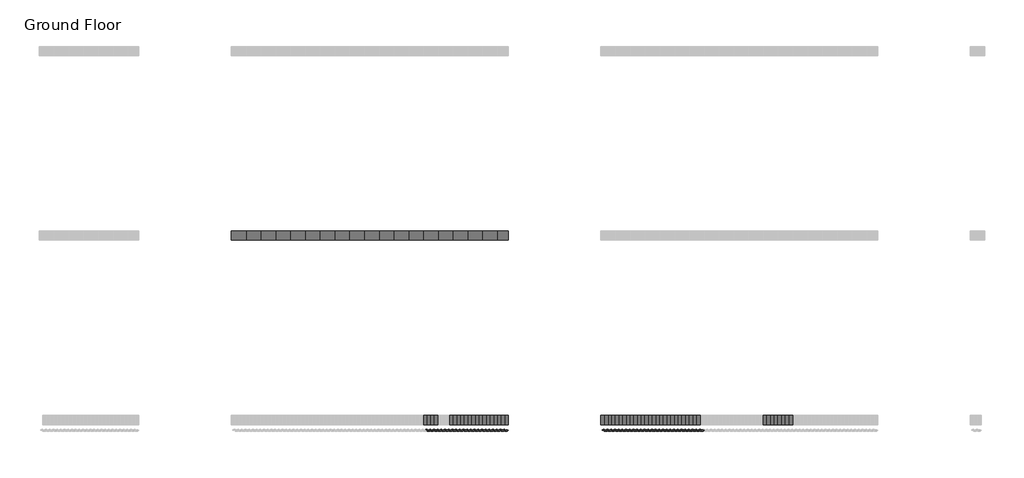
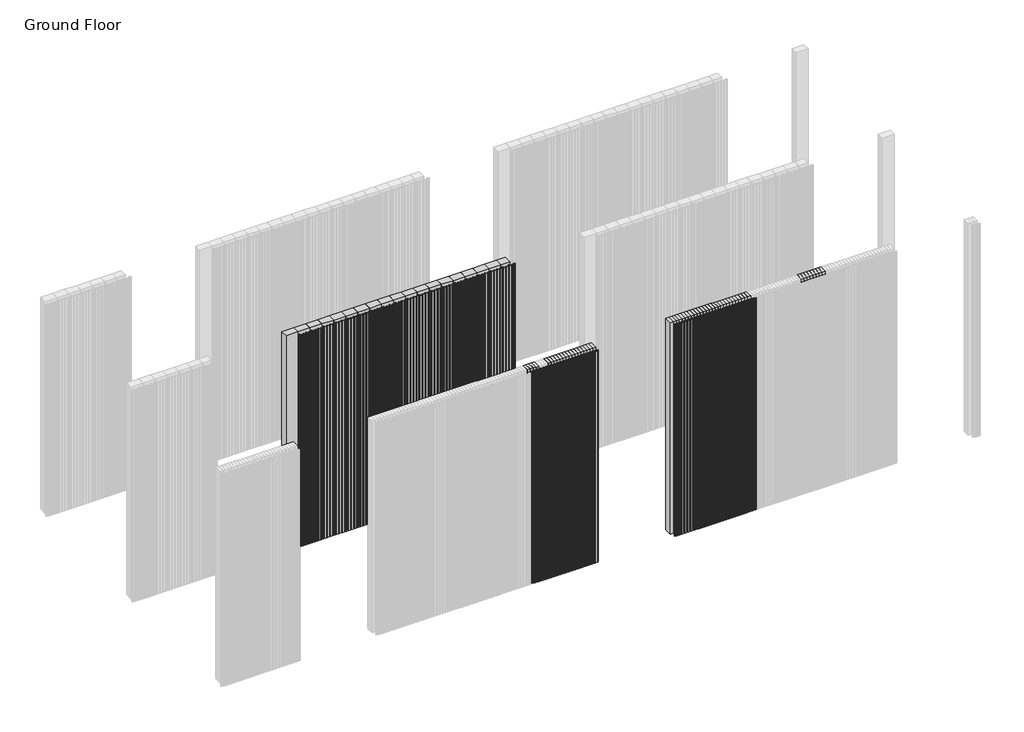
# One storey, part 27 of 350: 74 plates, 67 members.
"""IFC4 building model written with IfcOpenShell, lengths in millimetres."""

from ifc_helpers import new_model, si_unit, origin, place, context, project, spatial, transform, mapped, element, save
from components import rectangular_mullion_4c3290df, rectangular_mullion_73ab8564, empty_system_panel_empty_d822e783, empty_system_panel_empty_086c6263, empty_system_panel_empty_a0fcacb3, empty_system_panel_empty_3b645525, empty_system_panel_empty_df7ddcff

model = new_model("IFC4")

# Units and contexts
model_context = context("Model", 3, world=origin())
ifc_project = project(units=[si_unit("LENGTHUNIT", "METRE", prefix="MILLI")], contexts=[model_context])

# Site, building, storey
site = spatial("IfcSite", under=ifc_project)
building = spatial("IfcBuilding", under=site)
storey = spatial("IfcBuildingStorey", under=building, Name="Ground Floor", Elevation=0.0)

# Members
placement = place(None, origin())
rectangular_mullion_shape = rectangular_mullion_4c3290df(model_context)
element("IfcMember", 1, ObjectType="Rectangular Mullion : Cladding_Aluminium_Modinex_AluSelekta_Castelation_ScreenClad_40_SpottedGum", at=placement, inside=storey, context=model_context, shape_type="MappedRepresentation", body=[
    mapped(rectangular_mullion_shape, transform((43156.4361642, 4968.2978302, 0.0), x_axis=(1.0, 0.0, 0.0), y_axis=(0.0, -1.0, 0.0), z_axis=(0.0, 0.0, -1.0))),
])
element("IfcMember", 2, ObjectType="Rectangular Mullion : Cladding_Aluminium_Modinex_AluSelekta_Castelation_ScreenClad_40_SpottedGum", at=placement, inside=storey, context=model_context, shape_type="MappedRepresentation", body=[
    mapped(rectangular_mullion_shape, transform((43196.4361642, 4968.2978302, 0.0), x_axis=(1.0, 0.0, 0.0), y_axis=(0.0, -1.0, 0.0), z_axis=(0.0, 0.0, -1.0))),
])
element("IfcMember", 3, ObjectType="Rectangular Mullion : Cladding_Aluminium_Modinex_AluSelekta_Castelation_ScreenClad_40_SpottedGum", at=placement, inside=storey, context=model_context, shape_type="MappedRepresentation", body=[
    mapped(rectangular_mullion_shape, transform((43236.4361642, 4968.2978302, 0.0), x_axis=(1.0, 0.0, 0.0), y_axis=(0.0, -1.0, 0.0), z_axis=(0.0, 0.0, -1.0))),
])
element("IfcMember", 4, ObjectType="Rectangular Mullion : Cladding_Aluminium_Modinex_AluSelekta_Castelation_ScreenClad_40_SpottedGum", at=placement, inside=storey, context=model_context, shape_type="MappedRepresentation", body=[
    mapped(rectangular_mullion_shape, transform((43276.4361642, 4968.2978302, 0.0), x_axis=(1.0, 0.0, 0.0), y_axis=(0.0, -1.0, 0.0), z_axis=(0.0, 0.0, -1.0))),
])
element("IfcMember", 5, ObjectType="Rectangular Mullion : Cladding_Aluminium_Modinex_AluSelekta_Castelation_ScreenClad_40_SpottedGum", at=placement, inside=storey, context=model_context, shape_type="MappedRepresentation", body=[
    mapped(rectangular_mullion_shape, transform((43316.4361642, 4968.2978302, 0.0), x_axis=(1.0, 0.0, 0.0), y_axis=(0.0, -1.0, 0.0), z_axis=(0.0, 0.0, -1.0))),
])
element("IfcMember", 6, ObjectType="Rectangular Mullion : Cladding_Aluminium_Modinex_AluSelekta_Castelation_ScreenClad_40_SpottedGum", at=placement, inside=storey, context=model_context, shape_type="MappedRepresentation", body=[
    mapped(rectangular_mullion_shape, transform((43356.4361642, 4968.2978302, 0.0), x_axis=(1.0, 0.0, 0.0), y_axis=(0.0, -1.0, 0.0), z_axis=(0.0, 0.0, -1.0))),
])
element("IfcMember", 7, ObjectType="Rectangular Mullion : Cladding_Aluminium_Modinex_AluSelekta_Castelation_ScreenClad_40_SpottedGum", at=placement, inside=storey, context=model_context, shape_type="MappedRepresentation", body=[
    mapped(rectangular_mullion_shape, transform((43396.4361642, 4968.2978302, 0.0), x_axis=(1.0, 0.0, 0.0), y_axis=(0.0, -1.0, 0.0), z_axis=(0.0, 0.0, -1.0))),
])
element("IfcMember", 8, ObjectType="Rectangular Mullion : Cladding_Aluminium_Modinex_AluSelekta_Castelation_ScreenClad_40_SpottedGum", at=placement, inside=storey, context=model_context, shape_type="MappedRepresentation", body=[
    mapped(rectangular_mullion_shape, transform((43436.4361642, 4968.2978302, 0.0), x_axis=(1.0, 0.0, 0.0), y_axis=(0.0, -1.0, 0.0), z_axis=(0.0, 0.0, -1.0))),
])
element("IfcMember", 9, ObjectType="Rectangular Mullion : Cladding_Aluminium_Modinex_AluSelekta_Castelation_ScreenClad_40_SpottedGum", at=placement, inside=storey, context=model_context, shape_type="MappedRepresentation", body=[
    mapped(rectangular_mullion_shape, transform((43476.4361642, 4968.2978302, 0.0), x_axis=(1.0, 0.0, 0.0), y_axis=(0.0, -1.0, 0.0), z_axis=(0.0, 0.0, -1.0))),
])
element("IfcMember", 10, ObjectType="Rectangular Mullion : Cladding_Aluminium_Modinex_AluSelekta_Castelation_ScreenClad_40_SpottedGum", at=placement, inside=storey, context=model_context, shape_type="MappedRepresentation", body=[
    mapped(rectangular_mullion_shape, transform((43516.4361642, 4968.2978302, 0.0), x_axis=(1.0, 0.0, 0.0), y_axis=(0.0, -1.0, 0.0), z_axis=(0.0, 0.0, -1.0))),
])
element("IfcMember", 11, ObjectType="Rectangular Mullion : Cladding_Aluminium_Modinex_AluSelekta_Castelation_ScreenClad_40_SpottedGum", at=placement, inside=storey, context=model_context, shape_type="MappedRepresentation", body=[
    mapped(rectangular_mullion_shape, transform((43556.4361642, 4968.2978302, 0.0), x_axis=(1.0, 0.0, 0.0), y_axis=(0.0, -1.0, 0.0), z_axis=(0.0, 0.0, -1.0))),
])
element("IfcMember", 12, ObjectType="Rectangular Mullion : Cladding_Aluminium_Modinex_AluSelekta_Castelation_ScreenClad_40_SpottedGum", at=placement, inside=storey, context=model_context, shape_type="MappedRepresentation", body=[
    mapped(rectangular_mullion_shape, transform((43596.4361642, 4968.2978302, 0.0), x_axis=(1.0, 0.0, 0.0), y_axis=(0.0, -1.0, 0.0), z_axis=(0.0, 0.0, -1.0))),
])
element("IfcMember", 13, ObjectType="Rectangular Mullion : Cladding_Aluminium_Modinex_AluSelekta_Castelation_ScreenClad_40_SpottedGum", at=placement, inside=storey, context=model_context, shape_type="MappedRepresentation", body=[
    mapped(rectangular_mullion_shape, transform((43636.4361642, 4968.2978302, 0.0), x_axis=(1.0, 0.0, 0.0), y_axis=(0.0, -1.0, 0.0), z_axis=(0.0, 0.0, -1.0))),
])
element("IfcMember", 14, ObjectType="Rectangular Mullion : Cladding_Aluminium_Modinex_AluSelekta_Castelation_ScreenClad_40_SpottedGum", at=placement, inside=storey, context=model_context, shape_type="MappedRepresentation", body=[
    mapped(rectangular_mullion_shape, transform((43676.4361642, 4968.2978302, 0.0), x_axis=(1.0, 0.0, 0.0), y_axis=(0.0, -1.0, 0.0), z_axis=(0.0, 0.0, -1.0))),
])
element("IfcMember", 15, ObjectType="Rectangular Mullion : Cladding_Aluminium_Modinex_AluSelekta_Castelation_ScreenClad_40_SpottedGum", at=placement, inside=storey, context=model_context, shape_type="MappedRepresentation", body=[
    mapped(rectangular_mullion_shape, transform((43716.4361642, 4968.2978302, 0.0), x_axis=(1.0, 0.0, 0.0), y_axis=(0.0, -1.0, 0.0), z_axis=(0.0, 0.0, -1.0))),
])
element("IfcMember", 16, ObjectType="Rectangular Mullion : Cladding_Aluminium_Modinex_AluSelekta_Castelation_ScreenClad_40_SpottedGum", at=placement, inside=storey, context=model_context, shape_type="MappedRepresentation", body=[
    mapped(rectangular_mullion_shape, transform((43756.4361642, 4968.2978302, 0.0), x_axis=(1.0, 0.0, 0.0), y_axis=(0.0, -1.0, 0.0), z_axis=(0.0, 0.0, -1.0))),
])
element("IfcMember", 17, ObjectType="Rectangular Mullion : Cladding_Aluminium_Modinex_AluSelekta_Castelation_ScreenClad_40_SpottedGum", at=placement, inside=storey, context=model_context, shape_type="MappedRepresentation", body=[
    mapped(rectangular_mullion_shape, transform((43796.4361642, 4968.2978302, 0.0), x_axis=(1.0, 0.0, 0.0), y_axis=(0.0, -1.0, 0.0), z_axis=(0.0, 0.0, -1.0))),
])
element("IfcMember", 18, ObjectType="Rectangular Mullion : Cladding_Aluminium_Modinex_AluSelekta_Castelation_ScreenClad_40_SpottedGum", at=placement, inside=storey, context=model_context, shape_type="MappedRepresentation", body=[
    mapped(rectangular_mullion_shape, transform((43836.4361642, 4968.2978302, 0.0), x_axis=(1.0, 0.0, 0.0), y_axis=(0.0, -1.0, 0.0), z_axis=(0.0, 0.0, -1.0))),
])
element("IfcMember", 19, ObjectType="Rectangular Mullion : Cladding_Aluminium_Modinex_AluSelekta_Castelation_ScreenClad_40_SpottedGum", at=placement, inside=storey, context=model_context, shape_type="MappedRepresentation", body=[
    mapped(rectangular_mullion_shape, transform((43876.4361642, 4968.2978302, 0.0), x_axis=(1.0, 0.0, 0.0), y_axis=(0.0, -1.0, 0.0), z_axis=(0.0, 0.0, -1.0))),
])
element("IfcMember", 20, ObjectType="Rectangular Mullion : Cladding_Aluminium_Modinex_AluSelekta_Castelation_ScreenClad_40_SpottedGum", at=placement, inside=storey, context=model_context, shape_type="MappedRepresentation", body=[
    mapped(rectangular_mullion_shape, transform((43116.4361642, 4968.2978302, 0.0), x_axis=(1.0, 0.0, 0.0), y_axis=(0.0, -1.0, 0.0), z_axis=(0.0, 0.0, -1.0))),
])
element("IfcMember", 21, ObjectType="Rectangular Mullion : Cladding_Aluminium_Modinex_AluSelekta_Castelation_ScreenClad_40_SpottedGum", at=placement, inside=storey, context=model_context, shape_type="MappedRepresentation", body=[
    mapped(rectangular_mullion_shape, transform((43076.4361642, 4968.2978302, 0.0), x_axis=(1.0, 0.0, 0.0), y_axis=(0.0, -1.0, 0.0), z_axis=(0.0, 0.0, -1.0))),
])
element("IfcMember", 22, ObjectType="Rectangular Mullion : Cladding_Aluminium_Modinex_AluSelekta_Castelation_ScreenClad_40_SpottedGum", at=placement, inside=storey, context=model_context, shape_type="MappedRepresentation", body=[
    mapped(rectangular_mullion_shape, transform((43036.4361642, 4968.2978302, 0.0), x_axis=(1.0, 0.0, 0.0), y_axis=(0.0, -1.0, 0.0), z_axis=(0.0, 0.0, -1.0))),
])
element("IfcMember", 23, ObjectType="Rectangular Mullion : Cladding_Aluminium_Modinex_AluSelekta_Castelation_ScreenClad_40_TasmanianOak", at=placement, inside=storey, context=model_context, shape_type="MappedRepresentation", body=[
    mapped(rectangular_mullion_shape, transform((45996.4361642, 4968.2978302, 0.0), x_axis=(1.0, 0.0, 0.0), y_axis=(0.0, -1.0, 0.0), z_axis=(0.0, 0.0, -1.0))),
])
element("IfcMember", 24, ObjectType="Rectangular Mullion : Cladding_Aluminium_Modinex_AluSelekta_Castelation_ScreenClad_40_TasmanianOak", at=placement, inside=storey, context=model_context, shape_type="MappedRepresentation", body=[
    mapped(rectangular_mullion_shape, transform((45956.4361642, 4968.2978302, 0.0), x_axis=(1.0, 0.0, 0.0), y_axis=(0.0, -1.0, 0.0), z_axis=(0.0, 0.0, -1.0))),
])
element("IfcMember", 25, ObjectType="Rectangular Mullion : Cladding_Aluminium_Modinex_AluSelekta_Castelation_ScreenClad_40_TasmanianOak", at=placement, inside=storey, context=model_context, shape_type="MappedRepresentation", body=[
    mapped(rectangular_mullion_shape, transform((45916.4361642, 4968.2978302, 0.0), x_axis=(1.0, 0.0, 0.0), y_axis=(0.0, -1.0, 0.0), z_axis=(0.0, 0.0, -1.0))),
])
element("IfcMember", 26, ObjectType="Rectangular Mullion : Cladding_Aluminium_Modinex_AluSelekta_Castelation_ScreenClad_40_TasmanianOak", at=placement, inside=storey, context=model_context, shape_type="MappedRepresentation", body=[
    mapped(rectangular_mullion_shape, transform((45876.4361642, 4968.2978302, 0.0), x_axis=(1.0, 0.0, 0.0), y_axis=(0.0, -1.0, 0.0), z_axis=(0.0, 0.0, -1.0))),
])
element("IfcMember", 27, ObjectType="Rectangular Mullion : Cladding_Aluminium_Modinex_AluSelekta_Castelation_ScreenClad_40_TasmanianOak", at=placement, inside=storey, context=model_context, shape_type="MappedRepresentation", body=[
    mapped(rectangular_mullion_shape, transform((45836.4361642, 4968.2978302, 0.0), x_axis=(1.0, 0.0, 0.0), y_axis=(0.0, -1.0, 0.0), z_axis=(0.0, 0.0, -1.0))),
])
element("IfcMember", 28, ObjectType="Rectangular Mullion : Cladding_Aluminium_Modinex_AluSelekta_Castelation_ScreenClad_40_TasmanianOak", at=placement, inside=storey, context=model_context, shape_type="MappedRepresentation", body=[
    mapped(rectangular_mullion_shape, transform((45796.4361642, 4968.2978302, 0.0), x_axis=(1.0, 0.0, 0.0), y_axis=(0.0, -1.0, 0.0), z_axis=(0.0, 0.0, -1.0))),
])
element("IfcMember", 29, ObjectType="Rectangular Mullion : Cladding_Aluminium_Modinex_AluSelekta_Castelation_ScreenClad_40_TasmanianOak", at=placement, inside=storey, context=model_context, shape_type="MappedRepresentation", body=[
    mapped(rectangular_mullion_shape, transform((45756.4361642, 4968.2978302, 0.0), x_axis=(1.0, 0.0, 0.0), y_axis=(0.0, -1.0, 0.0), z_axis=(0.0, 0.0, -1.0))),
])
element("IfcMember", 30, ObjectType="Rectangular Mullion : Cladding_Aluminium_Modinex_AluSelekta_Castelation_ScreenClad_40_TasmanianOak", at=placement, inside=storey, context=model_context, shape_type="MappedRepresentation", body=[
    mapped(rectangular_mullion_shape, transform((45716.4361642, 4968.2978302, 0.0), x_axis=(1.0, 0.0, 0.0), y_axis=(0.0, -1.0, 0.0), z_axis=(0.0, 0.0, -1.0))),
])
element("IfcMember", 31, ObjectType="Rectangular Mullion : Cladding_Aluminium_Modinex_AluSelekta_Castelation_ScreenClad_40_TasmanianOak", at=placement, inside=storey, context=model_context, shape_type="MappedRepresentation", body=[
    mapped(rectangular_mullion_shape, transform((45676.4361642, 4968.2978302, 0.0), x_axis=(1.0, 0.0, 0.0), y_axis=(0.0, -1.0, 0.0), z_axis=(0.0, 0.0, -1.0))),
])
element("IfcMember", 32, ObjectType="Rectangular Mullion : Cladding_Aluminium_Modinex_AluSelekta_Castelation_ScreenClad_40_TasmanianOak", at=placement, inside=storey, context=model_context, shape_type="MappedRepresentation", body=[
    mapped(rectangular_mullion_shape, transform((45636.4361642, 4968.2978302, 0.0), x_axis=(1.0, 0.0, 0.0), y_axis=(0.0, -1.0, 0.0), z_axis=(0.0, 0.0, -1.0))),
])
element("IfcMember", 33, ObjectType="Rectangular Mullion : Cladding_Aluminium_Modinex_AluSelekta_Castelation_ScreenClad_40_TasmanianOak", at=placement, inside=storey, context=model_context, shape_type="MappedRepresentation", body=[
    mapped(rectangular_mullion_shape, transform((45596.4361642, 4968.2978302, 0.0), x_axis=(1.0, 0.0, 0.0), y_axis=(0.0, -1.0, 0.0), z_axis=(0.0, 0.0, -1.0))),
])
element("IfcMember", 34, ObjectType="Rectangular Mullion : Cladding_Aluminium_Modinex_AluSelekta_Castelation_ScreenClad_40_TasmanianOak", at=placement, inside=storey, context=model_context, shape_type="MappedRepresentation", body=[
    mapped(rectangular_mullion_shape, transform((45556.4361642, 4968.2978302, 0.0), x_axis=(1.0, 0.0, 0.0), y_axis=(0.0, -1.0, 0.0), z_axis=(0.0, 0.0, -1.0))),
])
element("IfcMember", 35, ObjectType="Rectangular Mullion : Cladding_Aluminium_Modinex_AluSelekta_Castelation_ScreenClad_40_TasmanianOak", at=placement, inside=storey, context=model_context, shape_type="MappedRepresentation", body=[
    mapped(rectangular_mullion_shape, transform((45516.4361642, 4968.2978302, 0.0), x_axis=(1.0, 0.0, 0.0), y_axis=(0.0, -1.0, 0.0), z_axis=(0.0, 0.0, -1.0))),
])
element("IfcMember", 36, ObjectType="Rectangular Mullion : Cladding_Aluminium_Modinex_AluSelekta_Castelation_ScreenClad_40_TasmanianOak", at=placement, inside=storey, context=model_context, shape_type="MappedRepresentation", body=[
    mapped(rectangular_mullion_shape, transform((45476.4361642, 4968.2978302, 0.0), x_axis=(1.0, 0.0, 0.0), y_axis=(0.0, -1.0, 0.0), z_axis=(0.0, 0.0, -1.0))),
])
element("IfcMember", 37, ObjectType="Rectangular Mullion : Cladding_Aluminium_Modinex_AluSelekta_Castelation_ScreenClad_40_TasmanianOak", at=placement, inside=storey, context=model_context, shape_type="MappedRepresentation", body=[
    mapped(rectangular_mullion_shape, transform((45436.4361642, 4968.2978302, 0.0), x_axis=(1.0, 0.0, 0.0), y_axis=(0.0, -1.0, 0.0), z_axis=(0.0, 0.0, -1.0))),
])
element("IfcMember", 38, ObjectType="Rectangular Mullion : Cladding_Aluminium_Modinex_AluSelekta_Castelation_ScreenClad_40_TasmanianOak", at=placement, inside=storey, context=model_context, shape_type="MappedRepresentation", body=[
    mapped(rectangular_mullion_shape, transform((45396.4361642, 4968.2978302, 0.0), x_axis=(1.0, 0.0, 0.0), y_axis=(0.0, -1.0, 0.0), z_axis=(0.0, 0.0, -1.0))),
])
element("IfcMember", 39, ObjectType="Rectangular Mullion : Cladding_Aluminium_Modinex_AluSelekta_Castelation_ScreenClad_40_TasmanianOak", at=placement, inside=storey, context=model_context, shape_type="MappedRepresentation", body=[
    mapped(rectangular_mullion_shape, transform((45356.4361642, 4968.2978302, 0.0), x_axis=(1.0, 0.0, 0.0), y_axis=(0.0, -1.0, 0.0), z_axis=(0.0, 0.0, -1.0))),
])
element("IfcMember", 40, ObjectType="Rectangular Mullion : Cladding_Aluminium_Modinex_AluSelekta_Castelation_ScreenClad_40_TasmanianOak", at=placement, inside=storey, context=model_context, shape_type="MappedRepresentation", body=[
    mapped(rectangular_mullion_shape, transform((45316.4361642, 4968.2978302, 0.0), x_axis=(1.0, 0.0, 0.0), y_axis=(0.0, -1.0, 0.0), z_axis=(0.0, 0.0, -1.0))),
])
element("IfcMember", 41, ObjectType="Rectangular Mullion : Cladding_Aluminium_Modinex_AluSelekta_Castelation_ScreenClad_40_TasmanianOak", at=placement, inside=storey, context=model_context, shape_type="MappedRepresentation", body=[
    mapped(rectangular_mullion_shape, transform((45276.4361642, 4968.2978302, 0.0), x_axis=(1.0, 0.0, 0.0), y_axis=(0.0, -1.0, 0.0), z_axis=(0.0, 0.0, -1.0))),
])
element("IfcMember", 42, ObjectType="Rectangular Mullion : Cladding_Aluminium_Modinex_AluSelekta_Castelation_ScreenClad_40_TasmanianOak", at=placement, inside=storey, context=model_context, shape_type="MappedRepresentation", body=[
    mapped(rectangular_mullion_shape, transform((45236.4361642, 4968.2978302, 0.0), x_axis=(1.0, 0.0, 0.0), y_axis=(0.0, -1.0, 0.0), z_axis=(0.0, 0.0, -1.0))),
])
element("IfcMember", 43, ObjectType="Rectangular Mullion : Cladding_Aluminium_Modinex_AluSelekta_Castelation_ScreenClad_40_TasmanianOak", at=placement, inside=storey, context=model_context, shape_type="MappedRepresentation", body=[
    mapped(rectangular_mullion_shape, transform((45196.4361642, 4968.2978302, 0.0), x_axis=(1.0, 0.0, 0.0), y_axis=(0.0, -1.0, 0.0), z_axis=(0.0, 0.0, -1.0))),
])
element("IfcMember", 44, ObjectType="Rectangular Mullion : Cladding_Aluminium_Modinex_AluSelekta_Castelation_ScreenClad_40_TasmanianOak", at=placement, inside=storey, context=model_context, shape_type="MappedRepresentation", body=[
    mapped(rectangular_mullion_shape, transform((45156.4361642, 4968.2978302, 0.0), x_axis=(1.0, 0.0, 0.0), y_axis=(0.0, -1.0, 0.0), z_axis=(0.0, 0.0, -1.0))),
])
element("IfcMember", 45, ObjectType="Rectangular Mullion : Cladding_Aluminium_Modinex_AluSelekta_Castelation_ScreenClad_40_TasmanianOak", at=placement, inside=storey, context=model_context, shape_type="MappedRepresentation", body=[
    mapped(rectangular_mullion_shape, transform((45116.4361642, 4968.2978302, 0.0), x_axis=(1.0, 0.0, 0.0), y_axis=(0.0, -1.0, 0.0), z_axis=(0.0, 0.0, -1.0))),
])
element("IfcMember", 46, ObjectType="Rectangular Mullion : Cladding_Aluminium_Modinex_AluSelekta_Castelation_ScreenClad_40_TasmanianOak", at=placement, inside=storey, context=model_context, shape_type="MappedRepresentation", body=[
    mapped(rectangular_mullion_shape, transform((45076.4361642, 4968.2978302, 0.0), x_axis=(1.0, 0.0, 0.0), y_axis=(0.0, -1.0, 0.0), z_axis=(0.0, 0.0, -1.0))),
])
element("IfcMember", 47, ObjectType="Rectangular Mullion : Cladding_Aluminium_Modinex_AluSelekta_Castelation_ScreenClad_40_TasmanianOak", at=placement, inside=storey, context=model_context, shape_type="MappedRepresentation", body=[
    mapped(rectangular_mullion_shape, transform((45036.4361642, 4968.2978302, 0.0), x_axis=(1.0, 0.0, 0.0), y_axis=(0.0, -1.0, 0.0), z_axis=(0.0, 0.0, -1.0))),
])
element("IfcMember", 48, ObjectType="Rectangular Mullion : Cladding_Aluminium_Modinex_AluSelekta_Castelation_ScreenClad_40_TasmanianOak", at=placement, inside=storey, context=model_context, shape_type="MappedRepresentation", body=[
    mapped(rectangular_mullion_shape, transform((44996.4361642, 4968.2978302, 0.0), x_axis=(1.0, 0.0, 0.0), y_axis=(0.0, -1.0, 0.0), z_axis=(0.0, 0.0, -1.0))),
])
element("IfcMember", 49, ObjectType="Rectangular Mullion : Cladding_Aluminium_Modinex_AluSelekta_Castelation_ScreenClad_40_TasmanianOak", at=placement, inside=storey, context=model_context, shape_type="MappedRepresentation", body=[
    mapped(rectangular_mullion_shape, transform((44956.4361642, 4968.2978302, 0.0), x_axis=(1.0, 0.0, 0.0), y_axis=(0.0, -1.0, 0.0), z_axis=(0.0, 0.0, -1.0))),
])
rectangular_mullion_2_shape = rectangular_mullion_73ab8564(model_context)
element("IfcMember", 50, ObjectType="Rectangular Mullion : Cladding_Aluminium_Modinex_AluSelekta_Castelation_ScreenClad_160_SpottedGum", at=placement, inside=storey, context=model_context, shape_type="MappedRepresentation", body=[
    mapped(rectangular_mullion_2_shape, transform((41076.4361642, 6968.2978302, 0.0), x_axis=(1.0, 0.0, 0.0), y_axis=(0.0, -1.0, 0.0), z_axis=(0.0, 0.0, -1.0))),
])
element("IfcMember", 51, ObjectType="Rectangular Mullion : Cladding_Aluminium_Modinex_AluSelekta_Castelation_ScreenClad_160_SpottedGum", at=placement, inside=storey, context=model_context, shape_type="MappedRepresentation", body=[
    mapped(rectangular_mullion_2_shape, transform((41236.4361642, 6968.2978302, 0.0), x_axis=(1.0, 0.0, 0.0), y_axis=(0.0, -1.0, 0.0), z_axis=(0.0, 0.0, -1.0))),
])
element("IfcMember", 52, ObjectType="Rectangular Mullion : Cladding_Aluminium_Modinex_AluSelekta_Castelation_ScreenClad_160_SpottedGum", at=placement, inside=storey, context=model_context, shape_type="MappedRepresentation", body=[
    mapped(rectangular_mullion_2_shape, transform((41396.4361642, 6968.2978302, 0.0), x_axis=(1.0, 0.0, 0.0), y_axis=(0.0, -1.0, 0.0), z_axis=(0.0, 0.0, -1.0))),
])
element("IfcMember", 53, ObjectType="Rectangular Mullion : Cladding_Aluminium_Modinex_AluSelekta_Castelation_ScreenClad_160_SpottedGum", at=placement, inside=storey, context=model_context, shape_type="MappedRepresentation", body=[
    mapped(rectangular_mullion_2_shape, transform((41556.4361642, 6968.2978302, 0.0), x_axis=(1.0, 0.0, 0.0), y_axis=(0.0, -1.0, 0.0), z_axis=(0.0, 0.0, -1.0))),
])
element("IfcMember", 54, ObjectType="Rectangular Mullion : Cladding_Aluminium_Modinex_AluSelekta_Castelation_ScreenClad_160_SpottedGum", at=placement, inside=storey, context=model_context, shape_type="MappedRepresentation", body=[
    mapped(rectangular_mullion_2_shape, transform((41716.4361642, 6968.2978302, 0.0), x_axis=(1.0, 0.0, 0.0), y_axis=(0.0, -1.0, 0.0), z_axis=(0.0, 0.0, -1.0))),
])
element("IfcMember", 55, ObjectType="Rectangular Mullion : Cladding_Aluminium_Modinex_AluSelekta_Castelation_ScreenClad_160_SpottedGum", at=placement, inside=storey, context=model_context, shape_type="MappedRepresentation", body=[
    mapped(rectangular_mullion_2_shape, transform((41876.4361642, 6968.2978302, 0.0), x_axis=(1.0, 0.0, 0.0), y_axis=(0.0, -1.0, 0.0), z_axis=(0.0, 0.0, -1.0))),
])
element("IfcMember", 56, ObjectType="Rectangular Mullion : Cladding_Aluminium_Modinex_AluSelekta_Castelation_ScreenClad_160_SpottedGum", at=placement, inside=storey, context=model_context, shape_type="MappedRepresentation", body=[
    mapped(rectangular_mullion_2_shape, transform((42036.4361642, 6968.2978302, 0.0), x_axis=(1.0, 0.0, 0.0), y_axis=(0.0, -1.0, 0.0), z_axis=(0.0, 0.0, -1.0))),
])
element("IfcMember", 57, ObjectType="Rectangular Mullion : Cladding_Aluminium_Modinex_AluSelekta_Castelation_ScreenClad_160_SpottedGum", at=placement, inside=storey, context=model_context, shape_type="MappedRepresentation", body=[
    mapped(rectangular_mullion_2_shape, transform((42196.4361642, 6968.2978302, 0.0), x_axis=(1.0, 0.0, 0.0), y_axis=(0.0, -1.0, 0.0), z_axis=(0.0, 0.0, -1.0))),
])
element("IfcMember", 58, ObjectType="Rectangular Mullion : Cladding_Aluminium_Modinex_AluSelekta_Castelation_ScreenClad_160_SpottedGum", at=placement, inside=storey, context=model_context, shape_type="MappedRepresentation", body=[
    mapped(rectangular_mullion_2_shape, transform((42356.4361642, 6968.2978302, 0.0), x_axis=(1.0, 0.0, 0.0), y_axis=(0.0, -1.0, 0.0), z_axis=(0.0, 0.0, -1.0))),
])
element("IfcMember", 59, ObjectType="Rectangular Mullion : Cladding_Aluminium_Modinex_AluSelekta_Castelation_ScreenClad_160_SpottedGum", at=placement, inside=storey, context=model_context, shape_type="MappedRepresentation", body=[
    mapped(rectangular_mullion_2_shape, transform((42516.4361642, 6968.2978302, 0.0), x_axis=(1.0, 0.0, 0.0), y_axis=(0.0, -1.0, 0.0), z_axis=(0.0, 0.0, -1.0))),
])
element("IfcMember", 60, ObjectType="Rectangular Mullion : Cladding_Aluminium_Modinex_AluSelekta_Castelation_ScreenClad_160_SpottedGum", at=placement, inside=storey, context=model_context, shape_type="MappedRepresentation", body=[
    mapped(rectangular_mullion_2_shape, transform((42676.4361642, 6968.2978302, 0.0), x_axis=(1.0, 0.0, 0.0), y_axis=(0.0, -1.0, 0.0), z_axis=(0.0, 0.0, -1.0))),
])
element("IfcMember", 61, ObjectType="Rectangular Mullion : Cladding_Aluminium_Modinex_AluSelekta_Castelation_ScreenClad_160_SpottedGum", at=placement, inside=storey, context=model_context, shape_type="MappedRepresentation", body=[
    mapped(rectangular_mullion_2_shape, transform((42836.4361642, 6968.2978302, 0.0), x_axis=(1.0, 0.0, 0.0), y_axis=(0.0, -1.0, 0.0), z_axis=(0.0, 0.0, -1.0))),
])
element("IfcMember", 62, ObjectType="Rectangular Mullion : Cladding_Aluminium_Modinex_AluSelekta_Castelation_ScreenClad_160_SpottedGum", at=placement, inside=storey, context=model_context, shape_type="MappedRepresentation", body=[
    mapped(rectangular_mullion_2_shape, transform((42996.4361642, 6968.2978302, 0.0), x_axis=(1.0, 0.0, 0.0), y_axis=(0.0, -1.0, 0.0), z_axis=(0.0, 0.0, -1.0))),
])
element("IfcMember", 63, ObjectType="Rectangular Mullion : Cladding_Aluminium_Modinex_AluSelekta_Castelation_ScreenClad_160_SpottedGum", at=placement, inside=storey, context=model_context, shape_type="MappedRepresentation", body=[
    mapped(rectangular_mullion_2_shape, transform((43156.4361642, 6968.2978302, 0.0), x_axis=(1.0, 0.0, 0.0), y_axis=(0.0, -1.0, 0.0), z_axis=(0.0, 0.0, -1.0))),
])
element("IfcMember", 64, ObjectType="Rectangular Mullion : Cladding_Aluminium_Modinex_AluSelekta_Castelation_ScreenClad_160_SpottedGum", at=placement, inside=storey, context=model_context, shape_type="MappedRepresentation", body=[
    mapped(rectangular_mullion_2_shape, transform((43316.4361642, 6968.2978302, 0.0), x_axis=(1.0, 0.0, 0.0), y_axis=(0.0, -1.0, 0.0), z_axis=(0.0, 0.0, -1.0))),
])
element("IfcMember", 65, ObjectType="Rectangular Mullion : Cladding_Aluminium_Modinex_AluSelekta_Castelation_ScreenClad_160_SpottedGum", at=placement, inside=storey, context=model_context, shape_type="MappedRepresentation", body=[
    mapped(rectangular_mullion_2_shape, transform((43476.4361642, 6968.2978302, 0.0), x_axis=(1.0, 0.0, 0.0), y_axis=(0.0, -1.0, 0.0), z_axis=(0.0, 0.0, -1.0))),
])
element("IfcMember", 66, ObjectType="Rectangular Mullion : Cladding_Aluminium_Modinex_AluSelekta_Castelation_ScreenClad_160_SpottedGum", at=placement, inside=storey, context=model_context, shape_type="MappedRepresentation", body=[
    mapped(rectangular_mullion_2_shape, transform((43636.4361642, 6968.2978302, 0.0), x_axis=(1.0, 0.0, 0.0), y_axis=(0.0, -1.0, 0.0), z_axis=(0.0, 0.0, -1.0))),
])
element("IfcMember", 67, ObjectType="Rectangular Mullion : Cladding_Aluminium_Modinex_AluSelekta_Castelation_ScreenClad_160_SpottedGum", at=placement, inside=storey, context=model_context, shape_type="MappedRepresentation", body=[
    mapped(rectangular_mullion_2_shape, transform((43796.4361642, 6968.2978302, 0.0), x_axis=(1.0, 0.0, 0.0), y_axis=(0.0, -1.0, 0.0), z_axis=(0.0, 0.0, -1.0))),
])

# Plates
empty_system_panel_empty_shape = empty_system_panel_empty_d822e783(model_context)
element("IfcPlate", 68, ObjectType="Empty System Panel : Empty", at=placement, inside=storey, context=model_context, shape_type="MappedRepresentation", body=[
    mapped(empty_system_panel_empty_shape, transform((44936.4361641, 4968.2978302, 0.0), x_axis=(1.0, 0.0, 0.0), y_axis=(0.0, 1.0, 0.0), z_axis=(0.0, 0.0, 1.0))),
])
empty_system_panel_empty_2_shape = empty_system_panel_empty_086c6263(model_context)
element("IfcPlate", 69, ObjectType="Empty System Panel : Empty", at=placement, inside=storey, context=model_context, shape_type="MappedRepresentation", body=[
    mapped(empty_system_panel_empty_2_shape, transform((43296.4361642, 4968.2978302, 0.0), x_axis=(1.0, 0.0, 0.0), y_axis=(0.0, 1.0, 0.0), z_axis=(0.0, 0.0, 1.0))),
])
element("IfcPlate", 70, ObjectType="Empty System Panel : Empty", at=placement, inside=storey, context=model_context, shape_type="MappedRepresentation", body=[
    mapped(empty_system_panel_empty_2_shape, transform((43336.4361642, 4968.2978302, 0.0), x_axis=(1.0, 0.0, 0.0), y_axis=(0.0, 1.0, 0.0), z_axis=(0.0, 0.0, 1.0))),
])
element("IfcPlate", 71, ObjectType="Empty System Panel : Empty", at=placement, inside=storey, context=model_context, shape_type="MappedRepresentation", body=[
    mapped(empty_system_panel_empty_2_shape, transform((43376.4361642, 4968.2978302, 0.0), x_axis=(1.0, 0.0, 0.0), y_axis=(0.0, 1.0, 0.0), z_axis=(0.0, 0.0, 1.0))),
])
element("IfcPlate", 72, ObjectType="Empty System Panel : Empty", at=placement, inside=storey, context=model_context, shape_type="MappedRepresentation", body=[
    mapped(empty_system_panel_empty_2_shape, transform((43416.4361642, 4968.2978302, 0.0), x_axis=(1.0, 0.0, 0.0), y_axis=(0.0, 1.0, 0.0), z_axis=(0.0, 0.0, 1.0))),
])
element("IfcPlate", 73, ObjectType="Empty System Panel : Empty", at=placement, inside=storey, context=model_context, shape_type="MappedRepresentation", body=[
    mapped(empty_system_panel_empty_2_shape, transform((43456.4361642, 4968.2978302, 0.0), x_axis=(1.0, 0.0, 0.0), y_axis=(0.0, 1.0, 0.0), z_axis=(0.0, 0.0, 1.0))),
])
element("IfcPlate", 74, ObjectType="Empty System Panel : Empty", at=placement, inside=storey, context=model_context, shape_type="MappedRepresentation", body=[
    mapped(empty_system_panel_empty_2_shape, transform((43496.4361642, 4968.2978302, 0.0), x_axis=(1.0, 0.0, 0.0), y_axis=(0.0, 1.0, 0.0), z_axis=(0.0, 0.0, 1.0))),
])
element("IfcPlate", 75, ObjectType="Empty System Panel : Empty", at=placement, inside=storey, context=model_context, shape_type="MappedRepresentation", body=[
    mapped(empty_system_panel_empty_2_shape, transform((43536.4361642, 4968.2978302, 0.0), x_axis=(1.0, 0.0, 0.0), y_axis=(0.0, 1.0, 0.0), z_axis=(0.0, 0.0, 1.0))),
])
element("IfcPlate", 76, ObjectType="Empty System Panel : Empty", at=placement, inside=storey, context=model_context, shape_type="MappedRepresentation", body=[
    mapped(empty_system_panel_empty_2_shape, transform((43576.4361642, 4968.2978302, 0.0), x_axis=(1.0, 0.0, 0.0), y_axis=(0.0, 1.0, 0.0), z_axis=(0.0, 0.0, 1.0))),
])
element("IfcPlate", 77, ObjectType="Empty System Panel : Empty", at=placement, inside=storey, context=model_context, shape_type="MappedRepresentation", body=[
    mapped(empty_system_panel_empty_2_shape, transform((43616.4361642, 4968.2978302, 0.0), x_axis=(1.0, 0.0, 0.0), y_axis=(0.0, 1.0, 0.0), z_axis=(0.0, 0.0, 1.0))),
])
element("IfcPlate", 78, ObjectType="Empty System Panel : Empty", at=placement, inside=storey, context=model_context, shape_type="MappedRepresentation", body=[
    mapped(empty_system_panel_empty_2_shape, transform((43656.4361642, 4968.2978302, 0.0), x_axis=(1.0, 0.0, 0.0), y_axis=(0.0, 1.0, 0.0), z_axis=(0.0, 0.0, 1.0))),
])
element("IfcPlate", 79, ObjectType="Empty System Panel : Empty", at=placement, inside=storey, context=model_context, shape_type="MappedRepresentation", body=[
    mapped(empty_system_panel_empty_2_shape, transform((43696.4361642, 4968.2978302, 0.0), x_axis=(1.0, 0.0, 0.0), y_axis=(0.0, 1.0, 0.0), z_axis=(0.0, 0.0, 1.0))),
])
element("IfcPlate", 80, ObjectType="Empty System Panel : Empty", at=placement, inside=storey, context=model_context, shape_type="MappedRepresentation", body=[
    mapped(empty_system_panel_empty_2_shape, transform((43736.4361642, 4968.2978302, 0.0), x_axis=(1.0, 0.0, 0.0), y_axis=(0.0, 1.0, 0.0), z_axis=(0.0, 0.0, 1.0))),
])
element("IfcPlate", 81, ObjectType="Empty System Panel : Empty", at=placement, inside=storey, context=model_context, shape_type="MappedRepresentation", body=[
    mapped(empty_system_panel_empty_2_shape, transform((43776.4361642, 4968.2978302, 0.0), x_axis=(1.0, 0.0, 0.0), y_axis=(0.0, 1.0, 0.0), z_axis=(0.0, 0.0, 1.0))),
])
element("IfcPlate", 82, ObjectType="Empty System Panel : Empty", at=placement, inside=storey, context=model_context, shape_type="MappedRepresentation", body=[
    mapped(empty_system_panel_empty_2_shape, transform((43816.4361642, 4968.2978302, 0.0), x_axis=(1.0, 0.0, 0.0), y_axis=(0.0, 1.0, 0.0), z_axis=(0.0, 0.0, 1.0))),
])
element("IfcPlate", 83, ObjectType="Empty System Panel : Empty", at=placement, inside=storey, context=model_context, shape_type="MappedRepresentation", body=[
    mapped(empty_system_panel_empty_2_shape, transform((43856.4361642, 4968.2978302, 0.0), x_axis=(1.0, 0.0, 0.0), y_axis=(0.0, 1.0, 0.0), z_axis=(0.0, 0.0, 1.0))),
])
element("IfcPlate", 84, ObjectType="Empty System Panel : Empty", at=placement, inside=storey, context=model_context, shape_type="MappedRepresentation", body=[
    mapped(empty_system_panel_empty_2_shape, transform((43136.4361642, 4968.2978302, 0.0), x_axis=(1.0, 0.0, 0.0), y_axis=(0.0, 1.0, 0.0), z_axis=(0.0, 0.0, 1.0))),
])
element("IfcPlate", 85, ObjectType="Empty System Panel : Empty", at=placement, inside=storey, context=model_context, shape_type="MappedRepresentation", body=[
    mapped(empty_system_panel_empty_2_shape, transform((43096.4361642, 4968.2978302, 0.0), x_axis=(1.0, 0.0, 0.0), y_axis=(0.0, 1.0, 0.0), z_axis=(0.0, 0.0, 1.0))),
])
element("IfcPlate", 86, ObjectType="Empty System Panel : Empty", at=placement, inside=storey, context=model_context, shape_type="MappedRepresentation", body=[
    mapped(empty_system_panel_empty_2_shape, transform((43056.4361642, 4968.2978302, 0.0), x_axis=(1.0, 0.0, 0.0), y_axis=(0.0, 1.0, 0.0), z_axis=(0.0, 0.0, 1.0))),
])
element("IfcPlate", 87, ObjectType="Empty System Panel : Empty", at=placement, inside=storey, context=model_context, shape_type="MappedRepresentation", body=[
    mapped(empty_system_panel_empty_2_shape, transform((43016.4361642, 4968.2978302, 0.0), x_axis=(1.0, 0.0, 0.0), y_axis=(0.0, 1.0, 0.0), z_axis=(0.0, 0.0, 1.0))),
])
element("IfcPlate", 88, ObjectType="Empty System Panel : Empty", at=placement, inside=storey, context=model_context, shape_type="MappedRepresentation", body=[
    mapped(empty_system_panel_empty_2_shape, transform((46976.4361642, 4968.2978302, 0.0), x_axis=(1.0, 0.0, 0.0), y_axis=(0.0, 1.0, 0.0), z_axis=(0.0, 0.0, 1.0))),
])
element("IfcPlate", 89, ObjectType="Empty System Panel : Empty", at=placement, inside=storey, context=model_context, shape_type="MappedRepresentation", body=[
    mapped(empty_system_panel_empty_2_shape, transform((46936.4361642, 4968.2978302, 0.0), x_axis=(1.0, 0.0, 0.0), y_axis=(0.0, 1.0, 0.0), z_axis=(0.0, 0.0, 1.0))),
])
element("IfcPlate", 90, ObjectType="Empty System Panel : Empty", at=placement, inside=storey, context=model_context, shape_type="MappedRepresentation", body=[
    mapped(empty_system_panel_empty_2_shape, transform((46896.4361642, 4968.2978302, 0.0), x_axis=(1.0, 0.0, 0.0), y_axis=(0.0, 1.0, 0.0), z_axis=(0.0, 0.0, 1.0))),
])
element("IfcPlate", 91, ObjectType="Empty System Panel : Empty", at=placement, inside=storey, context=model_context, shape_type="MappedRepresentation", body=[
    mapped(empty_system_panel_empty_2_shape, transform((46856.4361642, 4968.2978302, 0.0), x_axis=(1.0, 0.0, 0.0), y_axis=(0.0, 1.0, 0.0), z_axis=(0.0, 0.0, 1.0))),
])
element("IfcPlate", 92, ObjectType="Empty System Panel : Empty", at=placement, inside=storey, context=model_context, shape_type="MappedRepresentation", body=[
    mapped(empty_system_panel_empty_2_shape, transform((46816.4361642, 4968.2978302, 0.0), x_axis=(1.0, 0.0, 0.0), y_axis=(0.0, 1.0, 0.0), z_axis=(0.0, 0.0, 1.0))),
])
element("IfcPlate", 93, ObjectType="Empty System Panel : Empty", at=placement, inside=storey, context=model_context, shape_type="MappedRepresentation", body=[
    mapped(empty_system_panel_empty_2_shape, transform((46776.4361642, 4968.2978302, 0.0), x_axis=(1.0, 0.0, 0.0), y_axis=(0.0, 1.0, 0.0), z_axis=(0.0, 0.0, 1.0))),
])
element("IfcPlate", 94, ObjectType="Empty System Panel : Empty", at=placement, inside=storey, context=model_context, shape_type="MappedRepresentation", body=[
    mapped(empty_system_panel_empty_2_shape, transform((46736.4361642, 4968.2978302, 0.0), x_axis=(1.0, 0.0, 0.0), y_axis=(0.0, 1.0, 0.0), z_axis=(0.0, 0.0, 1.0))),
])
element("IfcPlate", 95, ObjectType="Empty System Panel : Empty", at=placement, inside=storey, context=model_context, shape_type="MappedRepresentation", body=[
    mapped(empty_system_panel_empty_2_shape, transform((46696.4361642, 4968.2978302, 0.0), x_axis=(1.0, 0.0, 0.0), y_axis=(0.0, 1.0, 0.0), z_axis=(0.0, 0.0, 1.0))),
])
element("IfcPlate", 96, ObjectType="Empty System Panel : Empty", at=placement, inside=storey, context=model_context, shape_type="MappedRepresentation", body=[
    mapped(empty_system_panel_empty_2_shape, transform((45976.4361642, 4968.2978302, 0.0), x_axis=(1.0, 0.0, 0.0), y_axis=(0.0, 1.0, 0.0), z_axis=(0.0, 0.0, 1.0))),
])
element("IfcPlate", 97, ObjectType="Empty System Panel : Empty", at=placement, inside=storey, context=model_context, shape_type="MappedRepresentation", body=[
    mapped(empty_system_panel_empty_2_shape, transform((45936.4361642, 4968.2978302, 0.0), x_axis=(1.0, 0.0, 0.0), y_axis=(0.0, 1.0, 0.0), z_axis=(0.0, 0.0, 1.0))),
])
element("IfcPlate", 98, ObjectType="Empty System Panel : Empty", at=placement, inside=storey, context=model_context, shape_type="MappedRepresentation", body=[
    mapped(empty_system_panel_empty_2_shape, transform((45896.4361642, 4968.2978302, 0.0), x_axis=(1.0, 0.0, 0.0), y_axis=(0.0, 1.0, 0.0), z_axis=(0.0, 0.0, 1.0))),
])
element("IfcPlate", 99, ObjectType="Empty System Panel : Empty", at=placement, inside=storey, context=model_context, shape_type="MappedRepresentation", body=[
    mapped(empty_system_panel_empty_2_shape, transform((45856.4361642, 4968.2978302, 0.0), x_axis=(1.0, 0.0, 0.0), y_axis=(0.0, 1.0, 0.0), z_axis=(0.0, 0.0, 1.0))),
])
element("IfcPlate", 100, ObjectType="Empty System Panel : Empty", at=placement, inside=storey, context=model_context, shape_type="MappedRepresentation", body=[
    mapped(empty_system_panel_empty_2_shape, transform((45816.4361642, 4968.2978302, 0.0), x_axis=(1.0, 0.0, 0.0), y_axis=(0.0, 1.0, 0.0), z_axis=(0.0, 0.0, 1.0))),
])
element("IfcPlate", 101, ObjectType="Empty System Panel : Empty", at=placement, inside=storey, context=model_context, shape_type="MappedRepresentation", body=[
    mapped(empty_system_panel_empty_2_shape, transform((45776.4361642, 4968.2978302, 0.0), x_axis=(1.0, 0.0, 0.0), y_axis=(0.0, 1.0, 0.0), z_axis=(0.0, 0.0, 1.0))),
])
element("IfcPlate", 102, ObjectType="Empty System Panel : Empty", at=placement, inside=storey, context=model_context, shape_type="MappedRepresentation", body=[
    mapped(empty_system_panel_empty_2_shape, transform((45736.4361642, 4968.2978302, 0.0), x_axis=(1.0, 0.0, 0.0), y_axis=(0.0, 1.0, 0.0), z_axis=(0.0, 0.0, 1.0))),
])
element("IfcPlate", 103, ObjectType="Empty System Panel : Empty", at=placement, inside=storey, context=model_context, shape_type="MappedRepresentation", body=[
    mapped(empty_system_panel_empty_2_shape, transform((45696.4361642, 4968.2978302, 0.0), x_axis=(1.0, 0.0, 0.0), y_axis=(0.0, 1.0, 0.0), z_axis=(0.0, 0.0, 1.0))),
])
element("IfcPlate", 104, ObjectType="Empty System Panel : Empty", at=placement, inside=storey, context=model_context, shape_type="MappedRepresentation", body=[
    mapped(empty_system_panel_empty_2_shape, transform((45656.4361642, 4968.2978302, 0.0), x_axis=(1.0, 0.0, 0.0), y_axis=(0.0, 1.0, 0.0), z_axis=(0.0, 0.0, 1.0))),
])
element("IfcPlate", 105, ObjectType="Empty System Panel : Empty", at=placement, inside=storey, context=model_context, shape_type="MappedRepresentation", body=[
    mapped(empty_system_panel_empty_2_shape, transform((45616.4361642, 4968.2978302, 0.0), x_axis=(1.0, 0.0, 0.0), y_axis=(0.0, 1.0, 0.0), z_axis=(0.0, 0.0, 1.0))),
])
element("IfcPlate", 106, ObjectType="Empty System Panel : Empty", at=placement, inside=storey, context=model_context, shape_type="MappedRepresentation", body=[
    mapped(empty_system_panel_empty_2_shape, transform((45576.4361642, 4968.2978302, 0.0), x_axis=(1.0, 0.0, 0.0), y_axis=(0.0, 1.0, 0.0), z_axis=(0.0, 0.0, 1.0))),
])
element("IfcPlate", 107, ObjectType="Empty System Panel : Empty", at=placement, inside=storey, context=model_context, shape_type="MappedRepresentation", body=[
    mapped(empty_system_panel_empty_2_shape, transform((45536.4361642, 4968.2978302, 0.0), x_axis=(1.0, 0.0, 0.0), y_axis=(0.0, 1.0, 0.0), z_axis=(0.0, 0.0, 1.0))),
])
element("IfcPlate", 108, ObjectType="Empty System Panel : Empty", at=placement, inside=storey, context=model_context, shape_type="MappedRepresentation", body=[
    mapped(empty_system_panel_empty_2_shape, transform((45496.4361642, 4968.2978302, 0.0), x_axis=(1.0, 0.0, 0.0), y_axis=(0.0, 1.0, 0.0), z_axis=(0.0, 0.0, 1.0))),
])
element("IfcPlate", 109, ObjectType="Empty System Panel : Empty", at=placement, inside=storey, context=model_context, shape_type="MappedRepresentation", body=[
    mapped(empty_system_panel_empty_2_shape, transform((45456.4361642, 4968.2978302, 0.0), x_axis=(1.0, 0.0, 0.0), y_axis=(0.0, 1.0, 0.0), z_axis=(0.0, 0.0, 1.0))),
])
element("IfcPlate", 110, ObjectType="Empty System Panel : Empty", at=placement, inside=storey, context=model_context, shape_type="MappedRepresentation", body=[
    mapped(empty_system_panel_empty_2_shape, transform((45416.4361642, 4968.2978302, 0.0), x_axis=(1.0, 0.0, 0.0), y_axis=(0.0, 1.0, 0.0), z_axis=(0.0, 0.0, 1.0))),
])
element("IfcPlate", 111, ObjectType="Empty System Panel : Empty", at=placement, inside=storey, context=model_context, shape_type="MappedRepresentation", body=[
    mapped(empty_system_panel_empty_2_shape, transform((45376.4361642, 4968.2978302, 0.0), x_axis=(1.0, 0.0, 0.0), y_axis=(0.0, 1.0, 0.0), z_axis=(0.0, 0.0, 1.0))),
])
element("IfcPlate", 112, ObjectType="Empty System Panel : Empty", at=placement, inside=storey, context=model_context, shape_type="MappedRepresentation", body=[
    mapped(empty_system_panel_empty_2_shape, transform((45336.4361642, 4968.2978302, 0.0), x_axis=(1.0, 0.0, 0.0), y_axis=(0.0, 1.0, 0.0), z_axis=(0.0, 0.0, 1.0))),
])
element("IfcPlate", 113, ObjectType="Empty System Panel : Empty", at=placement, inside=storey, context=model_context, shape_type="MappedRepresentation", body=[
    mapped(empty_system_panel_empty_2_shape, transform((45296.4361642, 4968.2978302, 0.0), x_axis=(1.0, 0.0, 0.0), y_axis=(0.0, 1.0, 0.0), z_axis=(0.0, 0.0, 1.0))),
])
element("IfcPlate", 114, ObjectType="Empty System Panel : Empty", at=placement, inside=storey, context=model_context, shape_type="MappedRepresentation", body=[
    mapped(empty_system_panel_empty_2_shape, transform((45256.4361642, 4968.2978302, 0.0), x_axis=(1.0, 0.0, 0.0), y_axis=(0.0, 1.0, 0.0), z_axis=(0.0, 0.0, 1.0))),
])
element("IfcPlate", 115, ObjectType="Empty System Panel : Empty", at=placement, inside=storey, context=model_context, shape_type="MappedRepresentation", body=[
    mapped(empty_system_panel_empty_2_shape, transform((45216.4361642, 4968.2978302, 0.0), x_axis=(1.0, 0.0, 0.0), y_axis=(0.0, 1.0, 0.0), z_axis=(0.0, 0.0, 1.0))),
])
element("IfcPlate", 116, ObjectType="Empty System Panel : Empty", at=placement, inside=storey, context=model_context, shape_type="MappedRepresentation", body=[
    mapped(empty_system_panel_empty_2_shape, transform((45176.4361642, 4968.2978302, 0.0), x_axis=(1.0, 0.0, 0.0), y_axis=(0.0, 1.0, 0.0), z_axis=(0.0, 0.0, 1.0))),
])
element("IfcPlate", 117, ObjectType="Empty System Panel : Empty", at=placement, inside=storey, context=model_context, shape_type="MappedRepresentation", body=[
    mapped(empty_system_panel_empty_2_shape, transform((45136.4361642, 4968.2978302, 0.0), x_axis=(1.0, 0.0, 0.0), y_axis=(0.0, 1.0, 0.0), z_axis=(0.0, 0.0, 1.0))),
])
element("IfcPlate", 118, ObjectType="Empty System Panel : Empty", at=placement, inside=storey, context=model_context, shape_type="MappedRepresentation", body=[
    mapped(empty_system_panel_empty_2_shape, transform((45096.4361642, 4968.2978302, 0.0), x_axis=(1.0, 0.0, 0.0), y_axis=(0.0, 1.0, 0.0), z_axis=(0.0, 0.0, 1.0))),
])
element("IfcPlate", 119, ObjectType="Empty System Panel : Empty", at=placement, inside=storey, context=model_context, shape_type="MappedRepresentation", body=[
    mapped(empty_system_panel_empty_2_shape, transform((45056.4361642, 4968.2978302, 0.0), x_axis=(1.0, 0.0, 0.0), y_axis=(0.0, 1.0, 0.0), z_axis=(0.0, 0.0, 1.0))),
])
element("IfcPlate", 120, ObjectType="Empty System Panel : Empty", at=placement, inside=storey, context=model_context, shape_type="MappedRepresentation", body=[
    mapped(empty_system_panel_empty_2_shape, transform((45016.4361642, 4968.2978302, 0.0), x_axis=(1.0, 0.0, 0.0), y_axis=(0.0, 1.0, 0.0), z_axis=(0.0, 0.0, 1.0))),
])
element("IfcPlate", 121, ObjectType="Empty System Panel : Empty", at=placement, inside=storey, context=model_context, shape_type="MappedRepresentation", body=[
    mapped(empty_system_panel_empty_2_shape, transform((44976.4361642, 4968.2978302, 0.0), x_axis=(1.0, 0.0, 0.0), y_axis=(0.0, 1.0, 0.0), z_axis=(0.0, 0.0, 1.0))),
])
empty_system_panel_empty_3_shape = empty_system_panel_empty_a0fcacb3(model_context)
element("IfcPlate", 122, ObjectType="Empty System Panel : Empty", at=placement, inside=storey, context=model_context, shape_type="MappedRepresentation", body=[
    mapped(empty_system_panel_empty_3_shape, transform((43896.4361641, 4968.2978302, 0.0), x_axis=(1.0, 0.0, 0.0), y_axis=(0.0, 1.0, 0.0), z_axis=(0.0, 0.0, 1.0))),
])
empty_system_panel_empty_4_shape = empty_system_panel_empty_3b645525(model_context)
element("IfcPlate", 123, ObjectType="Empty System Panel : Empty", at=placement, inside=storey, context=model_context, shape_type="MappedRepresentation", body=[
    mapped(empty_system_panel_empty_4_shape, transform((40996.4361641, 6968.2978302, 0.0), x_axis=(1.0, 0.0, 0.0), y_axis=(0.0, 1.0, 0.0), z_axis=(0.0, 0.0, 1.0))),
])
element("IfcPlate", 124, ObjectType="Empty System Panel : Empty", at=placement, inside=storey, context=model_context, shape_type="MappedRepresentation", body=[
    mapped(empty_system_panel_empty_4_shape, transform((41156.4361642, 6968.2978302, 0.0), x_axis=(1.0, 0.0, 0.0), y_axis=(0.0, 1.0, 0.0), z_axis=(0.0, 0.0, 1.0))),
])
element("IfcPlate", 125, ObjectType="Empty System Panel : Empty", at=placement, inside=storey, context=model_context, shape_type="MappedRepresentation", body=[
    mapped(empty_system_panel_empty_4_shape, transform((41316.4361642, 6968.2978302, 0.0), x_axis=(1.0, 0.0, 0.0), y_axis=(0.0, 1.0, 0.0), z_axis=(0.0, 0.0, 1.0))),
])
element("IfcPlate", 126, ObjectType="Empty System Panel : Empty", at=placement, inside=storey, context=model_context, shape_type="MappedRepresentation", body=[
    mapped(empty_system_panel_empty_4_shape, transform((41476.4361642, 6968.2978302, 0.0), x_axis=(1.0, 0.0, 0.0), y_axis=(0.0, 1.0, 0.0), z_axis=(0.0, 0.0, 1.0))),
])
element("IfcPlate", 127, ObjectType="Empty System Panel : Empty", at=placement, inside=storey, context=model_context, shape_type="MappedRepresentation", body=[
    mapped(empty_system_panel_empty_4_shape, transform((41636.4361642, 6968.2978302, 0.0), x_axis=(1.0, 0.0, 0.0), y_axis=(0.0, 1.0, 0.0), z_axis=(0.0, 0.0, 1.0))),
])
element("IfcPlate", 128, ObjectType="Empty System Panel : Empty", at=placement, inside=storey, context=model_context, shape_type="MappedRepresentation", body=[
    mapped(empty_system_panel_empty_4_shape, transform((41796.4361642, 6968.2978302, 0.0), x_axis=(1.0, 0.0, 0.0), y_axis=(0.0, 1.0, 0.0), z_axis=(0.0, 0.0, 1.0))),
])
element("IfcPlate", 129, ObjectType="Empty System Panel : Empty", at=placement, inside=storey, context=model_context, shape_type="MappedRepresentation", body=[
    mapped(empty_system_panel_empty_4_shape, transform((41956.4361642, 6968.2978302, 0.0), x_axis=(1.0, 0.0, 0.0), y_axis=(0.0, 1.0, 0.0), z_axis=(0.0, 0.0, 1.0))),
])
element("IfcPlate", 130, ObjectType="Empty System Panel : Empty", at=placement, inside=storey, context=model_context, shape_type="MappedRepresentation", body=[
    mapped(empty_system_panel_empty_4_shape, transform((42116.4361642, 6968.2978302, 0.0), x_axis=(1.0, 0.0, 0.0), y_axis=(0.0, 1.0, 0.0), z_axis=(0.0, 0.0, 1.0))),
])
element("IfcPlate", 131, ObjectType="Empty System Panel : Empty", at=placement, inside=storey, context=model_context, shape_type="MappedRepresentation", body=[
    mapped(empty_system_panel_empty_4_shape, transform((42276.4361642, 6968.2978302, 0.0), x_axis=(1.0, 0.0, 0.0), y_axis=(0.0, 1.0, 0.0), z_axis=(0.0, 0.0, 1.0))),
])
element("IfcPlate", 132, ObjectType="Empty System Panel : Empty", at=placement, inside=storey, context=model_context, shape_type="MappedRepresentation", body=[
    mapped(empty_system_panel_empty_4_shape, transform((42436.4361642, 6968.2978302, 0.0), x_axis=(1.0, 0.0, 0.0), y_axis=(0.0, 1.0, 0.0), z_axis=(0.0, 0.0, 1.0))),
])
element("IfcPlate", 133, ObjectType="Empty System Panel : Empty", at=placement, inside=storey, context=model_context, shape_type="MappedRepresentation", body=[
    mapped(empty_system_panel_empty_4_shape, transform((42596.4361642, 6968.2978302, 0.0), x_axis=(1.0, 0.0, 0.0), y_axis=(0.0, 1.0, 0.0), z_axis=(0.0, 0.0, 1.0))),
])
element("IfcPlate", 134, ObjectType="Empty System Panel : Empty", at=placement, inside=storey, context=model_context, shape_type="MappedRepresentation", body=[
    mapped(empty_system_panel_empty_4_shape, transform((42756.4361642, 6968.2978302, 0.0), x_axis=(1.0, 0.0, 0.0), y_axis=(0.0, 1.0, 0.0), z_axis=(0.0, 0.0, 1.0))),
])
element("IfcPlate", 135, ObjectType="Empty System Panel : Empty", at=placement, inside=storey, context=model_context, shape_type="MappedRepresentation", body=[
    mapped(empty_system_panel_empty_4_shape, transform((42916.4361642, 6968.2978302, 0.0), x_axis=(1.0, 0.0, 0.0), y_axis=(0.0, 1.0, 0.0), z_axis=(0.0, 0.0, 1.0))),
])
element("IfcPlate", 136, ObjectType="Empty System Panel : Empty", at=placement, inside=storey, context=model_context, shape_type="MappedRepresentation", body=[
    mapped(empty_system_panel_empty_4_shape, transform((43076.4361642, 6968.2978302, 0.0), x_axis=(1.0, 0.0, 0.0), y_axis=(0.0, 1.0, 0.0), z_axis=(0.0, 0.0, 1.0))),
])
element("IfcPlate", 137, ObjectType="Empty System Panel : Empty", at=placement, inside=storey, context=model_context, shape_type="MappedRepresentation", body=[
    mapped(empty_system_panel_empty_4_shape, transform((43236.4361642, 6968.2978302, 0.0), x_axis=(1.0, 0.0, 0.0), y_axis=(0.0, 1.0, 0.0), z_axis=(0.0, 0.0, 1.0))),
])
element("IfcPlate", 138, ObjectType="Empty System Panel : Empty", at=placement, inside=storey, context=model_context, shape_type="MappedRepresentation", body=[
    mapped(empty_system_panel_empty_4_shape, transform((43396.4361642, 6968.2978302, 0.0), x_axis=(1.0, 0.0, 0.0), y_axis=(0.0, 1.0, 0.0), z_axis=(0.0, 0.0, 1.0))),
])
element("IfcPlate", 139, ObjectType="Empty System Panel : Empty", at=placement, inside=storey, context=model_context, shape_type="MappedRepresentation", body=[
    mapped(empty_system_panel_empty_4_shape, transform((43556.4361642, 6968.2978302, 0.0), x_axis=(1.0, 0.0, 0.0), y_axis=(0.0, 1.0, 0.0), z_axis=(0.0, 0.0, 1.0))),
])
element("IfcPlate", 140, ObjectType="Empty System Panel : Empty", at=placement, inside=storey, context=model_context, shape_type="MappedRepresentation", body=[
    mapped(empty_system_panel_empty_4_shape, transform((43716.4361642, 6968.2978302, 0.0), x_axis=(1.0, 0.0, 0.0), y_axis=(0.0, 1.0, 0.0), z_axis=(0.0, 0.0, 1.0))),
])
empty_system_panel_empty_5_shape = empty_system_panel_empty_df7ddcff(model_context)
element("IfcPlate", 141, ObjectType="Empty System Panel : Empty", at=placement, inside=storey, context=model_context, shape_type="MappedRepresentation", body=[
    mapped(empty_system_panel_empty_5_shape, transform((43856.4361641, 6968.2978302, 0.0), x_axis=(1.0, 0.0, 0.0), y_axis=(0.0, 1.0, 0.0), z_axis=(0.0, 0.0, 1.0))),
])

save(model, "model.ifc")
